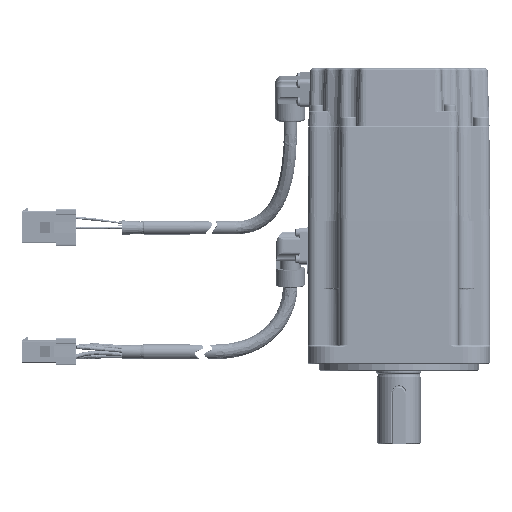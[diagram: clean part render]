
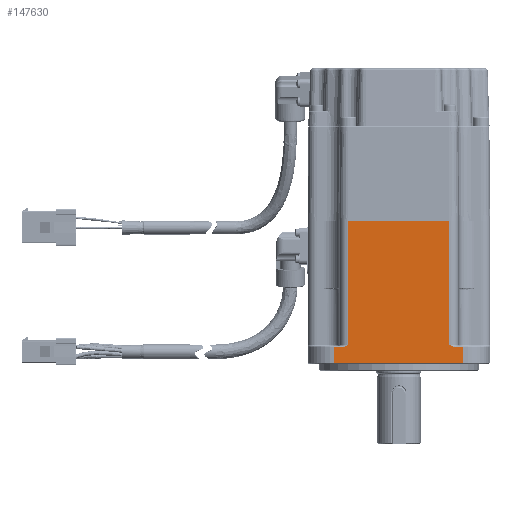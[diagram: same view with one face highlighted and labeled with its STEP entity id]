
A CAD part, top view. The second image highlights one B-rep face of the part: STEP entity #147630.
In plain terms, the highlighted planar face has unit normal (0, 0, 1) as drawn and (0, 0, -1) by its records, which use the part's own axes.
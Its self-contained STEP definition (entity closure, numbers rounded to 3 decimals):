
#1274 = LINE ( 'NONE', #180844, #37566 ) ;
#2739 = CARTESIAN_POINT ( 'NONE',  ( -22.137, 10.5, -40. ) ) ;
#5302 = EDGE_CURVE ( 'NONE', #23334, #86281, #194475, .T. ) ;
#7693 = CARTESIAN_POINT ( 'NONE',  ( 24.966, 10.5, -40. ) ) ;
#8838 = CARTESIAN_POINT ( 'NONE',  ( 24.461, 10.537, -40. ) ) ;
#8884 = CARTESIAN_POINT ( 'NONE',  ( 22.137, 11., -40. ) ) ;
#9152 = VERTEX_POINT ( 'NONE', #133166 ) ;
#9969 = CARTESIAN_POINT ( 'NONE',  ( 24.71, 10.5, -40. ) ) ;
#14542 = EDGE_CURVE ( 'NONE', #129636, #86281, #141808, .T. ) ;
#14822 = ORIENTED_EDGE ( 'NONE', *, *, #40224, .T. ) ;
#15819 = CARTESIAN_POINT ( 'NONE',  ( 28.3, 10.5, -40. ) ) ;
#18246 = CARTESIAN_POINT ( 'NONE',  ( -22.137, 15.7, -40. ) ) ;
#23334 = VERTEX_POINT ( 'NONE', #226375 ) ;
#23483 = LINE ( 'NONE', #2739, #170410 ) ;
#23547 = DIRECTION ( 'NONE',  ( 0., 1., 0. ) ) ;
#25982 = DIRECTION ( 'NONE',  ( -1., 0., 0. ) ) ;
#30396 = VERTEX_POINT ( 'NONE', #184323 ) ;
#30790 = CARTESIAN_POINT ( 'NONE',  ( -22.582, 11.262, -40. ) ) ;
#31791 = VERTEX_POINT ( 'NONE', #213418 ) ;
#31845 = ORIENTED_EDGE ( 'NONE', *, *, #114853, .T. ) ;
#32580 = ORIENTED_EDGE ( 'NONE', *, *, #14542, .F. ) ;
#34969 = EDGE_CURVE ( 'NONE', #53894, #126811, #193176, .T. ) ;
#37566 = VECTOR ( 'NONE', #127494, 1000. ) ;
#38841 = VERTEX_POINT ( 'NONE', #85079 ) ;
#40224 = EDGE_CURVE ( 'NONE', #129636, #31791, #131422, .T. ) ;
#48218 = CARTESIAN_POINT ( 'NONE',  ( -23.027, 11.023, -40. ) ) ;
#48607 = ORIENTED_EDGE ( 'NONE', *, *, #204122, .F. ) ;
#52607 = CARTESIAN_POINT ( 'NONE',  ( -28.3, 65.9, -40. ) ) ;
#53894 = VERTEX_POINT ( 'NONE', #167253 ) ;
#56091 = CARTESIAN_POINT ( 'NONE',  ( 28.3, -110.437, -40. ) ) ;
#61023 = CARTESIAN_POINT ( 'NONE',  ( 22.582, 11.262, -40. ) ) ;
#68137 = AXIS2_PLACEMENT_3D ( 'NONE', #102667, #172178, #190673 ) ;
#70409 = ORIENTED_EDGE ( 'NONE', *, *, #202790, .T. ) ;
#74191 = B_SPLINE_CURVE_WITH_KNOTS ( 'NONE', 3,
 ( #114323, #61023, #79532, #112039, #168720, #8838, #9969, #7693 ),
 .UNSPECIFIED., .F., .F.,
 ( 4, 2, 2, 4 ),
 ( 0., 0.001, 0.002, 0.003 ),
 .UNSPECIFIED. ) ;
#79532 = CARTESIAN_POINT ( 'NONE',  ( 23.027, 11.023, -40. ) ) ;
#83575 = CARTESIAN_POINT ( 'NONE',  ( -22.137, 65.9, -40. ) ) ;
#84126 = FACE_OUTER_BOUND ( 'NONE', #149269, .T. ) ;
#84495 = VECTOR ( 'NONE', #138720, 1000. ) ;
#85079 = CARTESIAN_POINT ( 'NONE',  ( -28.3, 10.5, -40. ) ) ;
#86281 = VERTEX_POINT ( 'NONE', #15819 ) ;
#86791 = DIRECTION ( 'NONE',  ( 1., 0., 0. ) ) ;
#102667 = CARTESIAN_POINT ( 'NONE',  ( -28.3, -110.437, -40. ) ) ;
#112039 = CARTESIAN_POINT ( 'NONE',  ( 23.729, 10.739, -40. ) ) ;
#114117 = CARTESIAN_POINT ( 'NONE',  ( -28.3, 3.6, -40. ) ) ;
#114323 = CARTESIAN_POINT ( 'NONE',  ( 22.137, 11.5, -40. ) ) ;
#114853 = EDGE_CURVE ( 'NONE', #31791, #38841, #1274, .T. ) ;
#114947 = ORIENTED_EDGE ( 'NONE', *, *, #166031, .T. ) ;
#115492 = DIRECTION ( 'NONE',  ( 0., -1., 0. ) ) ;
#116640 = CARTESIAN_POINT ( 'NONE',  ( -23.729, 10.739, -40. ) ) ;
#126811 = VERTEX_POINT ( 'NONE', #83575 ) ;
#127271 = ORIENTED_EDGE ( 'NONE', *, *, #5302, .T. ) ;
#127494 = DIRECTION ( 'NONE',  ( 0., 1., 0. ) ) ;
#129636 = VERTEX_POINT ( 'NONE', #217843 ) ;
#131362 = VECTOR ( 'NONE', #193931, 1000. ) ;
#131422 = LINE ( 'NONE', #114117, #201483 ) ;
#133166 = CARTESIAN_POINT ( 'NONE',  ( 22.137, 65.9, -40. ) ) ;
#137339 = PLANE ( 'NONE',  #68137 ) ;
#138720 = DIRECTION ( 'NONE',  ( 0., 1., 0. ) ) ;
#139941 = EDGE_CURVE ( 'NONE', #38841, #172974, #23483, .T. ) ;
#140612 = LINE ( 'NONE', #52607, #131362 ) ;
#141808 = LINE ( 'NONE', #56091, #164260 ) ;
#146341 = DIRECTION ( 'NONE',  ( 1., 0., 0. ) ) ;
#147630 = ADVANCED_FACE ( 'NONE', ( #84126 ), #137339, .T. ) ;
#149269 = EDGE_LOOP ( 'NONE', ( #48607, #70409, #157063, #127271, #32580, #14822, #31845, #160315, #114947, #192078 ) ) ;
#153670 = CARTESIAN_POINT ( 'NONE',  ( -23.97, 10.657, -40. ) ) ;
#154987 = EDGE_CURVE ( 'NONE', #30396, #23334, #74191, .T. ) ;
#157063 = ORIENTED_EDGE ( 'NONE', *, *, #154987, .T. ) ;
#160315 = ORIENTED_EDGE ( 'NONE', *, *, #139941, .T. ) ;
#160774 = VECTOR ( 'NONE', #115492, 1000. ) ;
#164260 = VECTOR ( 'NONE', #23547, 1000. ) ;
#166031 = EDGE_CURVE ( 'NONE', #172974, #53894, #175187, .T. ) ;
#167247 = VECTOR ( 'NONE', #86791, 1000. ) ;
#167253 = CARTESIAN_POINT ( 'NONE',  ( -22.137, 11.5, -40. ) ) ;
#168720 = CARTESIAN_POINT ( 'NONE',  ( 23.97, 10.657, -40. ) ) ;
#170410 = VECTOR ( 'NONE', #146341, 1000. ) ;
#172178 = DIRECTION ( 'NONE',  ( 0., 0., -1. ) ) ;
#172220 = CARTESIAN_POINT ( 'NONE',  ( -24.966, 10.5, -40. ) ) ;
#172974 = VERTEX_POINT ( 'NONE', #205456 ) ;
#175187 = B_SPLINE_CURVE_WITH_KNOTS ( 'NONE', 3,
 ( #172220, #206932, #224286, #153670, #116640, #48218, #30790, #189574 ),
 .UNSPECIFIED., .F., .F.,
 ( 4, 2, 2, 4 ),
 ( 0., 0.001, 0.002, 0.003 ),
 .UNSPECIFIED. ) ;
#180844 = CARTESIAN_POINT ( 'NONE',  ( -28.3, -110.437, -40. ) ) ;
#183914 = LINE ( 'NONE', #8884, #160774 ) ;
#184323 = CARTESIAN_POINT ( 'NONE',  ( 22.137, 11.5, -40. ) ) ;
#189574 = CARTESIAN_POINT ( 'NONE',  ( -22.137, 11.5, -40. ) ) ;
#190673 = DIRECTION ( 'NONE',  ( -1., 0., 0. ) ) ;
#192078 = ORIENTED_EDGE ( 'NONE', *, *, #34969, .T. ) ;
#193176 = LINE ( 'NONE', #18246, #84495 ) ;
#193324 = CARTESIAN_POINT ( 'NONE',  ( 28.3, 10.5, -40. ) ) ;
#193931 = DIRECTION ( 'NONE',  ( -1., 0., 0. ) ) ;
#194475 = LINE ( 'NONE', #193324, #167247 ) ;
#201483 = VECTOR ( 'NONE', #25982, 1000. ) ;
#202790 = EDGE_CURVE ( 'NONE', #9152, #30396, #183914, .T. ) ;
#204122 = EDGE_CURVE ( 'NONE', #9152, #126811, #140612, .T. ) ;
#205456 = CARTESIAN_POINT ( 'NONE',  ( -24.966, 10.5, -40. ) ) ;
#206932 = CARTESIAN_POINT ( 'NONE',  ( -24.71, 10.5, -40. ) ) ;
#213418 = CARTESIAN_POINT ( 'NONE',  ( -28.3, 3.6, -40. ) ) ;
#217843 = CARTESIAN_POINT ( 'NONE',  ( 28.3, 3.6, -40. ) ) ;
#224286 = CARTESIAN_POINT ( 'NONE',  ( -24.461, 10.537, -40. ) ) ;
#226375 = CARTESIAN_POINT ( 'NONE',  ( 24.966, 10.5, -40. ) ) ;
